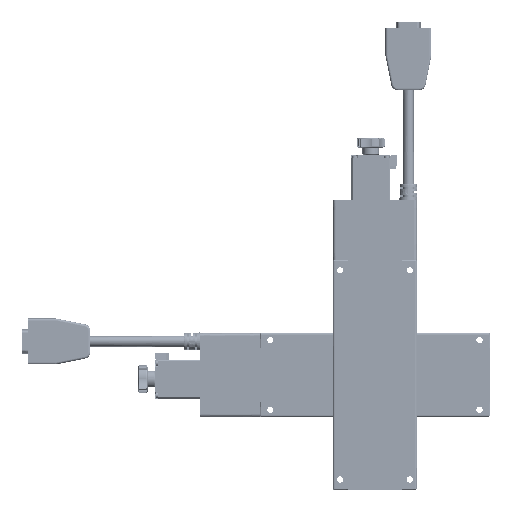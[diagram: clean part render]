
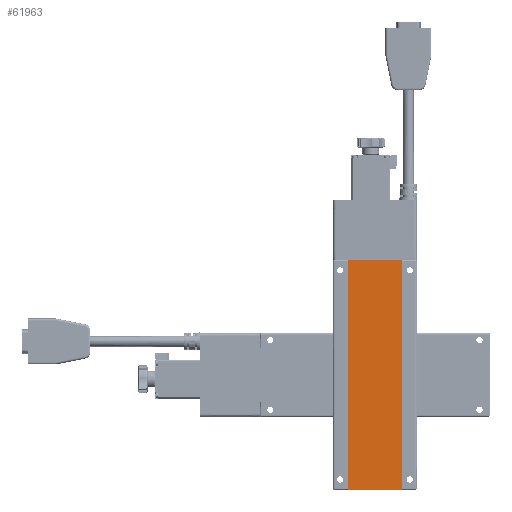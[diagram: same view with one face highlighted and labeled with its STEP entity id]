
A CAD part, front view. The second image highlights one B-rep face of the part: STEP entity #61963.
In plain terms, the highlighted planar face has unit normal (0, -1, 0).
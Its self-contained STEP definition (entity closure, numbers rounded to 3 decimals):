
#2555 = VERTEX_POINT ( 'NONE', #122881 ) ;
#7655 = CARTESIAN_POINT ( 'NONE',  ( -6.433, 0.8, 164.8 ) ) ;
#8320 = CARTESIAN_POINT ( 'NONE',  ( -19.3, 0.8, 164.8 ) ) ;
#10620 = EDGE_CURVE ( 'NONE', #28896, #2555, #132308, .T. ) ;
#10736 = EDGE_CURVE ( 'NONE', #2555, #105392, #43960, .T. ) ;
#16226 = EDGE_LOOP ( 'NONE', ( #114044, #108220, #94444, #95678 ) ) ;
#17166 = CARTESIAN_POINT ( 'NONE',  ( -19.3, 0.8, 0.2 ) ) ;
#20357 = CARTESIAN_POINT ( 'NONE',  ( -19.3, 0.8, 55.067 ) ) ;
#22066 = CARTESIAN_POINT ( 'NONE',  ( 19.3, 0.8, 164.8 ) ) ;
#24023 = CARTESIAN_POINT ( 'NONE',  ( 19.3, 0.8, 164.8 ) ) ;
#28896 = VERTEX_POINT ( 'NONE', #55167 ) ;
#42908 = CARTESIAN_POINT ( 'NONE',  ( -19.3, 0.8, 109.933 ) ) ;
#43960 = B_SPLINE_CURVE_WITH_KNOTS ( 'NONE', 3,
 ( #94385, #107271, #71806, #143470 ),
 .UNSPECIFIED., .F., .F.,
 ( 4, 4 ),
 ( 0., 1. ),
 .UNSPECIFIED. ) ;
#48811 = EDGE_CURVE ( 'NONE', #97103, #28896, #84075, .T. ) ;
#48963 = CARTESIAN_POINT ( 'NONE',  ( 19.3, 0.8, 109.933 ) ) ;
#55167 = CARTESIAN_POINT ( 'NONE',  ( -19.3, 0.8, 164.8 ) ) ;
#61963 = ADVANCED_FACE ( 'NONE', ( #97868 ), #146967, .F. ) ;
#71806 = CARTESIAN_POINT ( 'NONE',  ( 6.433, 0.8, 0.2 ) ) ;
#84075 = B_SPLINE_CURVE_WITH_KNOTS ( 'NONE', 3,
 ( #22066, #119484, #7655, #105842 ),
 .UNSPECIFIED., .F., .F.,
 ( 4, 4 ),
 ( 0., 1. ),
 .UNSPECIFIED. ) ;
#94385 = CARTESIAN_POINT ( 'NONE',  ( -19.3, 0.8, 0.2 ) ) ;
#94444 = ORIENTED_EDGE ( 'NONE', *, *, #48811, .T. ) ;
#95678 = ORIENTED_EDGE ( 'NONE', *, *, #10620, .T. ) ;
#95680 = CARTESIAN_POINT ( 'NONE',  ( 19.3, 0.8, 0.2 ) ) ;
#97103 = VERTEX_POINT ( 'NONE', #144184 ) ;
#97868 = FACE_OUTER_BOUND ( 'NONE', #16226, .T. ) ;
#99422 = DIRECTION ( 'NONE',  ( 0., 1., 0. ) ) ;
#105392 = VERTEX_POINT ( 'NONE', #136693 ) ;
#105842 = CARTESIAN_POINT ( 'NONE',  ( -19.3, 0.8, 164.8 ) ) ;
#107271 = CARTESIAN_POINT ( 'NONE',  ( -6.433, 0.8, 0.2 ) ) ;
#108220 = ORIENTED_EDGE ( 'NONE', *, *, #124117, .T. ) ;
#114044 = ORIENTED_EDGE ( 'NONE', *, *, #10736, .T. ) ;
#119484 = CARTESIAN_POINT ( 'NONE',  ( 6.433, 0.8, 164.8 ) ) ;
#122881 = CARTESIAN_POINT ( 'NONE',  ( -19.3, 0.8, 0.2 ) ) ;
#124117 = EDGE_CURVE ( 'NONE', #105392, #97103, #148746, .T. ) ;
#132308 = B_SPLINE_CURVE_WITH_KNOTS ( 'NONE', 3,
 ( #8320, #42908, #20357, #17166 ),
 .UNSPECIFIED., .F., .F.,
 ( 4, 4 ),
 ( 0., 1. ),
 .UNSPECIFIED. ) ;
#134274 = CARTESIAN_POINT ( 'NONE',  ( 19.3, 0.8, 55.067 ) ) ;
#136466 = DIRECTION ( 'NONE',  ( 1., 0., 0. ) ) ;
#136693 = CARTESIAN_POINT ( 'NONE',  ( 19.3, 0.8, 0.2 ) ) ;
#138691 = AXIS2_PLACEMENT_3D ( 'NONE', #145366, #99422, #136466 ) ;
#143470 = CARTESIAN_POINT ( 'NONE',  ( 19.3, 0.8, 0.2 ) ) ;
#144184 = CARTESIAN_POINT ( 'NONE',  ( 19.3, 0.8, 164.8 ) ) ;
#145366 = CARTESIAN_POINT ( 'NONE',  ( -19.3, 0.8, 164.8 ) ) ;
#146967 = PLANE ( 'NONE',  #138691 ) ;
#148746 = B_SPLINE_CURVE_WITH_KNOTS ( 'NONE', 3,
 ( #95680, #134274, #48963, #24023 ),
 .UNSPECIFIED., .F., .F.,
 ( 4, 4 ),
 ( 0., 1. ),
 .UNSPECIFIED. ) ;
